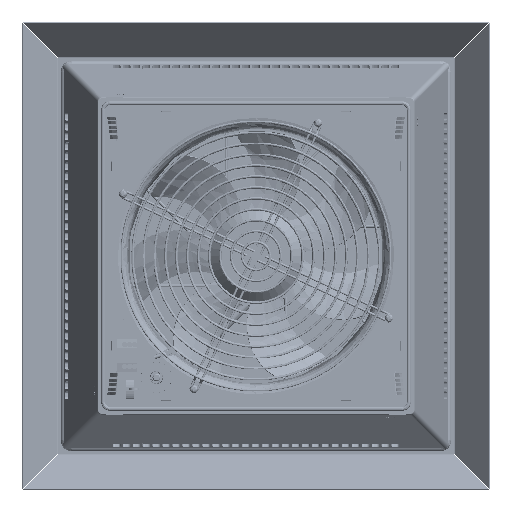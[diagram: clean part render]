
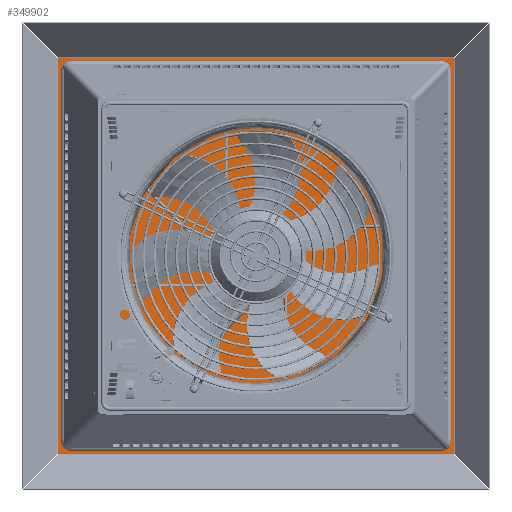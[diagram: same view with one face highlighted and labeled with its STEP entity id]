
A CAD part, front view. The second image highlights one B-rep face of the part: STEP entity #349902.
In plain terms, the highlighted planar face has unit normal (0, -1, 0).
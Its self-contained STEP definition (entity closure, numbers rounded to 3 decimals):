
#113911 = ORIENTED_EDGE ( 'NONE', *, *, #318839, .T. ) ;
#126850 = EDGE_LOOP ( 'NONE', ( #137155, #141560 ) ) ;
#128417 = EDGE_LOOP ( 'NONE', ( #247168, #373351, #113911, #129149 ) ) ;
#129149 = ORIENTED_EDGE ( 'NONE', *, *, #319130, .T. ) ;
#137155 = ORIENTED_EDGE ( 'NONE', *, *, #318448, .T. ) ;
#141206 = DIRECTION ( 'NONE',  ( 0., 0., 1. ) ) ;
#141207 = DIRECTION ( 'NONE',  ( 0., 1., 0. ) ) ;
#141208 = CARTESIAN_POINT ( 'NONE',  ( 150.25, 89.7, -150.25 ) ) ;
#141209 = AXIS2_PLACEMENT_3D ( 'NONE', #141208, #141207, #141206 ) ;
#141210 = CIRCLE ( 'NONE', #141209, 2.5 ) ;
#141220 = CARTESIAN_POINT ( 'NONE',  ( -150.25, 89.7, 150.25 ) ) ;
#141222 = CIRCLE ( 'NONE', #141287, 2.5 ) ;
#141285 = DIRECTION ( 'NONE',  ( 0., 0., 1. ) ) ;
#141286 = DIRECTION ( 'NONE',  ( 0., 1., 0. ) ) ;
#141287 = AXIS2_PLACEMENT_3D ( 'NONE', #141220, #141286, #141285 ) ;
#141330 = CIRCLE ( 'NONE', #141392, 2.5 ) ;
#141388 = DIRECTION ( 'NONE',  ( 0., 0., 1. ) ) ;
#141390 = DIRECTION ( 'NONE',  ( 0., 1., 0. ) ) ;
#141391 = CARTESIAN_POINT ( 'NONE',  ( 150.25, 89.7, 150.25 ) ) ;
#141392 = AXIS2_PLACEMENT_3D ( 'NONE', #141391, #141390, #141388 ) ;
#141493 = AXIS2_PLACEMENT_3D ( 'NONE', #141559, #141558, #141557 ) ;
#141502 = CIRCLE ( 'NONE', #141493, 2.5 ) ;
#141557 = DIRECTION ( 'NONE',  ( 0., 0., 1. ) ) ;
#141558 = DIRECTION ( 'NONE',  ( 0., 1., 0. ) ) ;
#141559 = CARTESIAN_POINT ( 'NONE',  ( -150.25, 89.7, -150.25 ) ) ;
#141560 = ORIENTED_EDGE ( 'NONE', *, *, #372336, .T. ) ;
#141632 = LINE ( 'NONE', #141661, #141660 ) ;
#141659 = DIRECTION ( 'NONE',  ( 1., 0., 0. ) ) ;
#141660 = VECTOR ( 'NONE', #141659, 1000. ) ;
#141661 = CARTESIAN_POINT ( 'NONE',  ( -200., 89.7, -199.092 ) ) ;
#141811 = DIRECTION ( 'NONE',  ( 0., 0., 1. ) ) ;
#141812 = VECTOR ( 'NONE', #141811, 1000. ) ;
#141813 = CARTESIAN_POINT ( 'NONE',  ( 199.092, 89.7, -200. ) ) ;
#141831 = LINE ( 'NONE', #141813, #141812 ) ;
#141960 = DIRECTION ( 'NONE',  ( 0., 0., -1. ) ) ;
#141961 = VECTOR ( 'NONE', #141960, 1000. ) ;
#141962 = LINE ( 'NONE', #141964, #141961 ) ;
#141964 = CARTESIAN_POINT ( 'NONE',  ( -199.092, 89.7, -200. ) ) ;
#142073 = DIRECTION ( 'NONE',  ( -1., 0., 0. ) ) ;
#142074 = VECTOR ( 'NONE', #142073, 1000. ) ;
#142075 = CARTESIAN_POINT ( 'NONE',  ( -200., 89.7, 199.092 ) ) ;
#142076 = LINE ( 'NONE', #142075, #142074 ) ;
#142909 = EDGE_LOOP ( 'NONE', ( #144378, #149021 ) ) ;
#144378 = ORIENTED_EDGE ( 'NONE', *, *, #318639, .T. ) ;
#149021 = ORIENTED_EDGE ( 'NONE', *, *, #372812, .T. ) ;
#149662 = EDGE_LOOP ( 'NONE', ( #214344, #204203 ) ) ;
#204203 = ORIENTED_EDGE ( 'NONE', *, *, #371267, .T. ) ;
#214344 = ORIENTED_EDGE ( 'NONE', *, *, #318364, .T. ) ;
#227829 = ORIENTED_EDGE ( 'NONE', *, *, #318510, .T. ) ;
#231079 = ORIENTED_EDGE ( 'NONE', *, *, #372752, .T. ) ;
#240789 = EDGE_LOOP ( 'NONE', ( #227829, #231079 ) ) ;
#247168 = ORIENTED_EDGE ( 'NONE', *, *, #319441, .T. ) ;
#280887 = FACE_OUTER_BOUND ( 'NONE', #128417, .T. ) ;
#280894 = FACE_BOUND ( 'NONE', #126850, .T. ) ;
#280896 = PLANE ( 'NONE',  #281100 ) ;
#280915 = DIRECTION ( 'NONE',  ( 0., 0., -1. ) ) ;
#281082 = DIRECTION ( 'NONE',  ( 0., -1., 0. ) ) ;
#281084 = FACE_BOUND ( 'NONE', #149662, .T. ) ;
#281098 = FACE_BOUND ( 'NONE', #142909, .T. ) ;
#281100 = AXIS2_PLACEMENT_3D ( 'NONE', #281118, #281082, #280915 ) ;
#281105 = FACE_BOUND ( 'NONE', #240789, .T. ) ;
#281118 = CARTESIAN_POINT ( 'NONE',  ( -200., 89.7, -200. ) ) ;
#318364 = EDGE_CURVE ( 'NONE', #372421, #372578, #141210, .T. ) ;
#318448 = EDGE_CURVE ( 'NONE', #372652, #372647, #141222, .T. ) ;
#318510 = EDGE_CURVE ( 'NONE', #372837, #372835, #141330, .T. ) ;
#318639 = EDGE_CURVE ( 'NONE', #372784, #372615, #141502, .T. ) ;
#318672 = CARTESIAN_POINT ( 'NONE',  ( 150.25, 89.7, -150.25 ) ) ;
#318834 = DIRECTION ( 'NONE',  ( 0., 0., 1. ) ) ;
#318836 = DIRECTION ( 'NONE',  ( 0., 1., 0. ) ) ;
#318839 = EDGE_CURVE ( 'NONE', #389126, #389132, #141632, .T. ) ;
#318872 = AXIS2_PLACEMENT_3D ( 'NONE', #318672, #318836, #318834 ) ;
#318878 = CIRCLE ( 'NONE', #318872, 2.5 ) ;
#319130 = EDGE_CURVE ( 'NONE', #389132, #389085, #141831, .T. ) ;
#319263 = EDGE_CURVE ( 'NONE', #389088, #389126, #141962, .T. ) ;
#319441 = EDGE_CURVE ( 'NONE', #389085, #389088, #142076, .T. ) ;
#321492 = CIRCLE ( 'NONE', #321713, 2.5 ) ;
#321704 = DIRECTION ( 'NONE',  ( 0., 0., 1. ) ) ;
#321707 = DIRECTION ( 'NONE',  ( 0., 1., 0. ) ) ;
#321711 = CARTESIAN_POINT ( 'NONE',  ( -150.25, 89.7, 150.25 ) ) ;
#321713 = AXIS2_PLACEMENT_3D ( 'NONE', #321711, #321707, #321704 ) ;
#322141 = CARTESIAN_POINT ( 'NONE',  ( 150.25, 89.7, -147.75 ) ) ;
#322755 = CARTESIAN_POINT ( 'NONE',  ( 150.25, 89.7, -152.75 ) ) ;
#322913 = CARTESIAN_POINT ( 'NONE',  ( -150.25, 89.7, 152.75 ) ) ;
#322973 = CARTESIAN_POINT ( 'NONE',  ( -150.25, 89.7, 147.75 ) ) ;
#323034 = CARTESIAN_POINT ( 'NONE',  ( -150.25, 89.7, -152.75 ) ) ;
#323294 = CARTESIAN_POINT ( 'NONE',  ( 150.25, 89.7, 150.25 ) ) ;
#323315 = CARTESIAN_POINT ( 'NONE',  ( -150.25, 89.7, -147.75 ) ) ;
#323337 = CIRCLE ( 'NONE', #323374, 2.5 ) ;
#323374 = AXIS2_PLACEMENT_3D ( 'NONE', #323294, #323648, #323643 ) ;
#323507 = DIRECTION ( 'NONE',  ( 0., 0., 1. ) ) ;
#323511 = DIRECTION ( 'NONE',  ( 0., 1., 0. ) ) ;
#323514 = CARTESIAN_POINT ( 'NONE',  ( -150.25, 89.7, -150.25 ) ) ;
#323516 = AXIS2_PLACEMENT_3D ( 'NONE', #323514, #323511, #323507 ) ;
#323521 = CARTESIAN_POINT ( 'NONE',  ( 150.25, 89.7, 152.75 ) ) ;
#323538 = CIRCLE ( 'NONE', #323516, 2.5 ) ;
#323579 = CARTESIAN_POINT ( 'NONE',  ( 150.25, 89.7, 147.75 ) ) ;
#323643 = DIRECTION ( 'NONE',  ( 0., 0., 1. ) ) ;
#323648 = DIRECTION ( 'NONE',  ( 0., 1., 0. ) ) ;
#349902 = ADVANCED_FACE ( 'NONE', ( #280887, #280894, #281098, #281084, #281105 ), #280896, .T. ) ;
#371267 = EDGE_CURVE ( 'NONE', #372578, #372421, #318878, .T. ) ;
#372336 = EDGE_CURVE ( 'NONE', #372647, #372652, #321492, .T. ) ;
#372421 = VERTEX_POINT ( 'NONE', #322141 ) ;
#372578 = VERTEX_POINT ( 'NONE', #322755 ) ;
#372615 = VERTEX_POINT ( 'NONE', #323034 ) ;
#372647 = VERTEX_POINT ( 'NONE', #322973 ) ;
#372652 = VERTEX_POINT ( 'NONE', #322913 ) ;
#372752 = EDGE_CURVE ( 'NONE', #372835, #372837, #323337, .T. ) ;
#372784 = VERTEX_POINT ( 'NONE', #323315 ) ;
#372812 = EDGE_CURVE ( 'NONE', #372615, #372784, #323538, .T. ) ;
#372835 = VERTEX_POINT ( 'NONE', #323579 ) ;
#372837 = VERTEX_POINT ( 'NONE', #323521 ) ;
#373351 = ORIENTED_EDGE ( 'NONE', *, *, #319263, .T. ) ;
#389085 = VERTEX_POINT ( 'NONE', #396627 ) ;
#389088 = VERTEX_POINT ( 'NONE', #396607 ) ;
#389126 = VERTEX_POINT ( 'NONE', #396804 ) ;
#389132 = VERTEX_POINT ( 'NONE', #396789 ) ;
#396607 = CARTESIAN_POINT ( 'NONE',  ( -199.092, 89.7, 199.092 ) ) ;
#396627 = CARTESIAN_POINT ( 'NONE',  ( 199.092, 89.7, 199.092 ) ) ;
#396789 = CARTESIAN_POINT ( 'NONE',  ( 199.092, 89.7, -199.092 ) ) ;
#396804 = CARTESIAN_POINT ( 'NONE',  ( -199.092, 89.7, -199.092 ) ) ;
